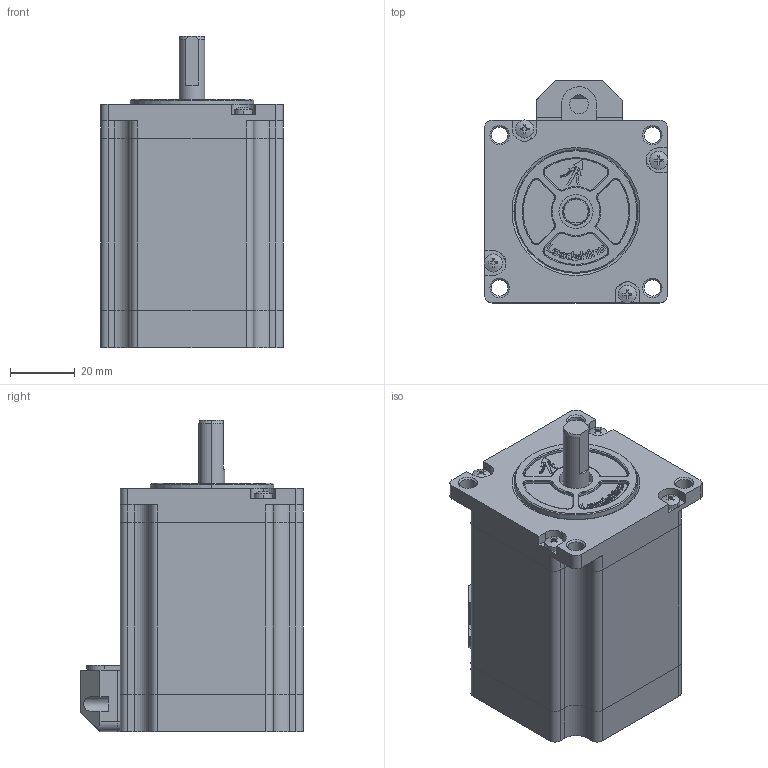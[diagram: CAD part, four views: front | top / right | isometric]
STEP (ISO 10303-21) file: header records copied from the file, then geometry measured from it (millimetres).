
FILE_DESCRIPTION (( 'STEP AP203' ), '1' );
FILE_NAME ('57CM23 MS20.STEP', '2019-11-04T01:57:45', ( 'Microsoft' ), ( 'China' ), 'SwSTEP 2.0', 'SolidWorks 2011', '' );
FILE_SCHEMA (( 'CONFIG_CONTROL_DESIGN' ));
Length unit declared in the file: millimetre
Products named in the file (9): 57CM23 MS20; 1_1_04_EB572-359_4_Default_3_Default; 3_4_Default_3_Default; 压线盖（3D)_Default_3_Default; 2_4_Default_3_Default; 1_2_04_680006_4_Default_3_Default; 1_2_05_130022_4_Default_3_Default; 1_1_02_EB571-152_4_Default_3_Default; 压线垫（3D)_Default_3_Default
Assembly tree (15 placements, depth 2):
  57CM23 MS20
    1_1_04_EB572-359_4_Default_3_Default
    1_1_02_EB571-152_4_Default_3_Default
    1_2_05_130022_4_Default_3_Default  x8
    3_4_Default_3_Default
    压线盖（3D)_Default_3_Default
    2_4_Default_3_Default
    1_2_04_680006_4_Default_3_Default
    压线垫（3D)_Default_3_Default
Bounding box: 56.54 x 68.77 x 96 mm (x, y, z)
Volume: 129323.2 mm3; surface area: 60493.8 mm2
Topology: 6 solids, 27 shells, 1584 faces, 4271 edges, 2803 vertices
Faces by surface type: plane 1023, cylinder 307, bspline 213, cone 41
Entity records: 48630 total; most frequent: CARTESIAN_POINT 14881, ORIENTED_EDGE 7188, DIRECTION 6035, EDGE_CURVE 3604, VECTOR 2665, LINE 2665, VERTEX_POINT 2383, AXIS2_PLACEMENT_3D 1685
